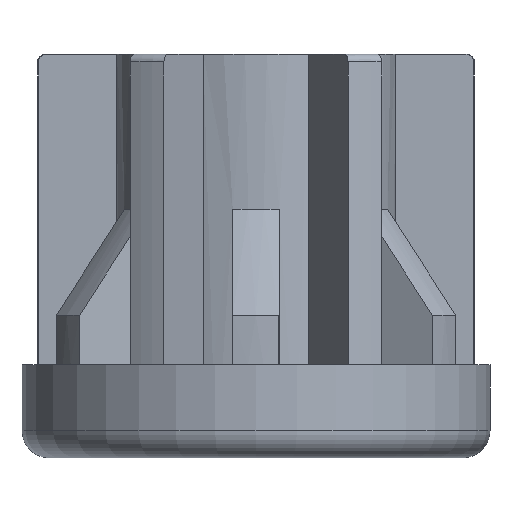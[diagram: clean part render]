
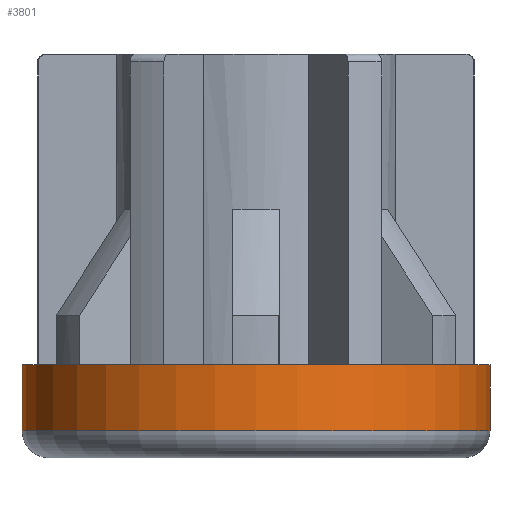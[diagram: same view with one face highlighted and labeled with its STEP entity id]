
A CAD part, front view. The second image highlights one B-rep face of the part: STEP entity #3801.
In plain terms, the highlighted cylindrical face has radius 30.15 mm (diameter 60.3 mm), a partial arc.
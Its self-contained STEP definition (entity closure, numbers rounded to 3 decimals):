
#80 = AXIS2_PLACEMENT_3D ( 'NONE', #363, #3741, #691 ) ;
#112 = ORIENTED_EDGE ( 'NONE', *, *, #2421, .T. ) ;
#199 = DIRECTION ( 'NONE',  ( -1., 0., 0. ) ) ;
#221 = VERTEX_POINT ( 'NONE', #3411 ) ;
#320 = DIRECTION ( 'NONE',  ( -1., 0., 0. ) ) ;
#363 = CARTESIAN_POINT ( 'NONE',  ( 0., 0., 11.25 ) ) ;
#416 = CARTESIAN_POINT ( 'NONE',  ( -30.15, 0., 11.25 ) ) ;
#531 = ORIENTED_EDGE ( 'NONE', *, *, #2392, .F. ) ;
#568 = CARTESIAN_POINT ( 'NONE',  ( -30.15, 0., 2.75 ) ) ;
#691 = DIRECTION ( 'NONE',  ( -1., 0., 0. ) ) ;
#851 = EDGE_CURVE ( 'NONE', #2067, #3721, #2133, .T. ) ;
#1418 = ORIENTED_EDGE ( 'NONE', *, *, #1845, .F. ) ;
#1527 = CARTESIAN_POINT ( 'NONE',  ( 30.15, 0., 11.25 ) ) ;
#1679 = CIRCLE ( 'NONE', #80, 30.15 ) ;
#1780 = CIRCLE ( 'NONE', #2206, 30.15 ) ;
#1831 = FACE_OUTER_BOUND ( 'NONE', #3137, .T. ) ;
#1845 = EDGE_CURVE ( 'NONE', #2648, #221, #2450, .T. ) ;
#1947 = AXIS2_PLACEMENT_3D ( 'NONE', #3537, #4218, #199 ) ;
#1992 = CARTESIAN_POINT ( 'NONE',  ( 0., 0., 2.75 ) ) ;
#2067 = VERTEX_POINT ( 'NONE', #568 ) ;
#2126 = DIRECTION ( 'NONE',  ( 0., 0., 1. ) ) ;
#2133 = LINE ( 'NONE', #2784, #3914 ) ;
#2206 = AXIS2_PLACEMENT_3D ( 'NONE', #1992, #2340, #320 ) ;
#2340 = DIRECTION ( 'NONE',  ( 0., 0., -1. ) ) ;
#2392 = EDGE_CURVE ( 'NONE', #221, #2067, #1780, .T. ) ;
#2421 = EDGE_CURVE ( 'NONE', #2648, #3721, #1679, .T. ) ;
#2450 = LINE ( 'NONE', #2497, #3911 ) ;
#2497 = CARTESIAN_POINT ( 'NONE',  ( 30.15, 0., 11.25 ) ) ;
#2648 = VERTEX_POINT ( 'NONE', #1527 ) ;
#2784 = CARTESIAN_POINT ( 'NONE',  ( -30.15, 0., 11.25 ) ) ;
#2903 = ORIENTED_EDGE ( 'NONE', *, *, #851, .F. ) ;
#3137 = EDGE_LOOP ( 'NONE', ( #2903, #531, #1418, #112 ) ) ;
#3201 = CYLINDRICAL_SURFACE ( 'NONE', #1947, 30.15 ) ;
#3411 = CARTESIAN_POINT ( 'NONE',  ( 30.15, 0., 2.75 ) ) ;
#3537 = CARTESIAN_POINT ( 'NONE',  ( 0., 0., 11.25 ) ) ;
#3721 = VERTEX_POINT ( 'NONE', #416 ) ;
#3741 = DIRECTION ( 'NONE',  ( 0., 0., -1. ) ) ;
#3801 = ADVANCED_FACE ( 'NONE', ( #1831 ), #3201, .T. ) ;
#3911 = VECTOR ( 'NONE', #4155, 1000. ) ;
#3914 = VECTOR ( 'NONE', #2126, 1000. ) ;
#4155 = DIRECTION ( 'NONE',  ( 0., 0., -1. ) ) ;
#4218 = DIRECTION ( 'NONE',  ( 0., 0., -1. ) ) ;
